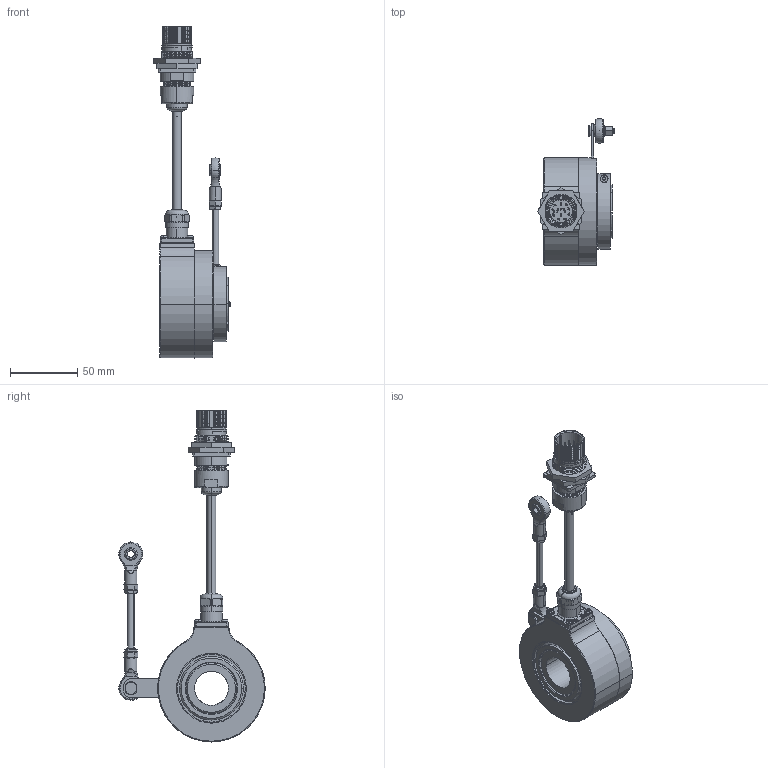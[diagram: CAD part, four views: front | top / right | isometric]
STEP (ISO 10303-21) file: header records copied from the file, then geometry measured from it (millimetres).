
FILE_DESCRIPTION (( 'STEP AP203' ), '1' );
FILE_NAME ('K80I.OXX.XXXXX.XH2687A.6XR14.XXXX.step', '2025-12-09T12:30:13', ( '' ), ( '' ), 'SwSTEP 2.0', 'SolidWorks 2021', '' );
FILE_SCHEMA (( 'CONFIG_CONTROL_DESIGN' ));
Length unit declared in the file: millimetre
Products named in the file (1): K80I.OXX.XXXXX.XH2687A.6XR14.XXXX
Bounding box: 57.02 x 109.11 x 247.43 mm (x, y, z)
Volume: 237729.7 mm3; surface area: 102066.3 mm2
Topology: 41 solids, 41 shells, 2264 faces, 5783 edges, 3673 vertices
Faces by surface type: cylinder 759, plane 725, cone 442, bspline 176, torus 106, sphere 56
Entity records: 77341 total; most frequent: CARTESIAN_POINT 23959, ORIENTED_EDGE 11442, DIRECTION 10886, EDGE_CURVE 5721, AXIS2_PLACEMENT_3D 4288, VERTEX_POINT 3669, EDGE_LOOP 2464, LINE 2310
